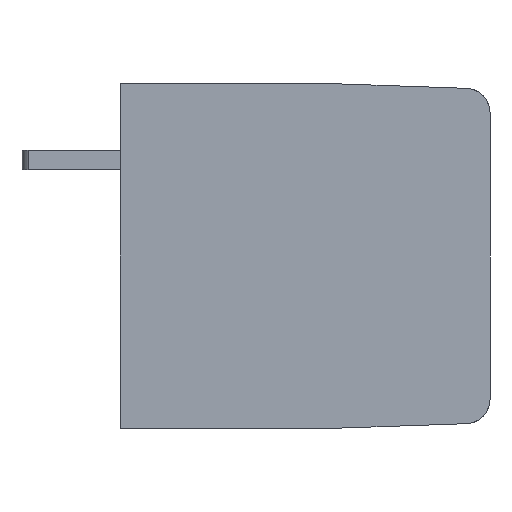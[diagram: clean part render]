
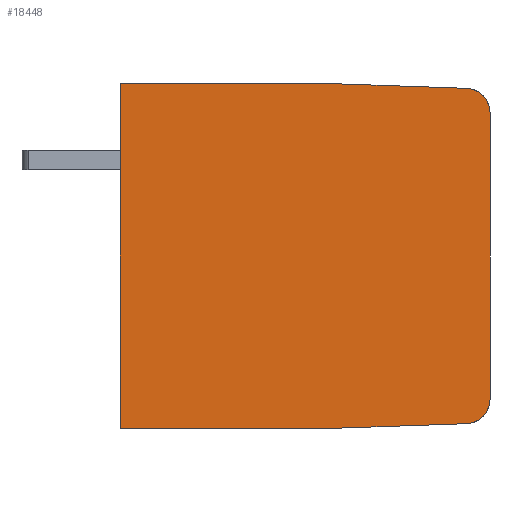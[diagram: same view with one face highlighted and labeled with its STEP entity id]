
A CAD part, front view. The second image highlights one B-rep face of the part: STEP entity #18448.
In plain terms, the highlighted planar face has unit normal (0, -1, 0).
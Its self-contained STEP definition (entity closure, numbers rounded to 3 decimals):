
#277=DIRECTION('',(1.,0.,0.));
#278=VECTOR('',#277,8.5);
#279=CARTESIAN_POINT('',(0.,6.447,-0.493));
#280=LINE('',#279,#278);
#325=CARTESIAN_POINT('',(14.,6.447,-13.301));
#326=DIRECTION('',(0.,-1.,0.));
#327=DIRECTION('',(0.035,0.,-0.999));
#328=AXIS2_PLACEMENT_3D('',#325,#326,#327);
#330=DIRECTION('',(1.,0.,0.));
#331=VECTOR('',#330,8.5);
#332=CARTESIAN_POINT('',(0.,6.447,-14.493));
#333=LINE('',#332,#331);
#334=DIRECTION('',(0.,0.,-1.));
#335=VECTOR('',#334,14.);
#336=CARTESIAN_POINT('',(0.,6.447,-0.493));
#337=LINE('',#336,#335);
#338=DIRECTION('',(-0.999,0.,0.035));
#339=VECTOR('',#338,5.538);
#340=CARTESIAN_POINT('',(14.035,6.447,-0.687));
#341=LINE('',#340,#339);
#342=CARTESIAN_POINT('',(14.,6.447,-1.686));
#343=DIRECTION('',(0.,-1.,0.));
#344=DIRECTION('',(1.,0.,0.));
#345=AXIS2_PLACEMENT_3D('',#342,#343,#344);
#347=DIRECTION('',(0.,0.,-1.));
#348=VECTOR('',#347,11.615);
#349=CARTESIAN_POINT('',(15.,6.447,-1.686));
#350=LINE('',#349,#348);
#588=DIRECTION('',(-0.999,0.,-0.035));
#589=VECTOR('',#588,5.538);
#590=CARTESIAN_POINT('',(14.035,6.447,-14.3));
#591=LINE('',#590,#589);
#16709=CARTESIAN_POINT('',(0.,6.447,-0.493));
#16710=CARTESIAN_POINT('',(0.,6.447,-14.493));
#16711=VERTEX_POINT('',#16709);
#16712=VERTEX_POINT('',#16710);
#16737=CARTESIAN_POINT('',(8.5,6.447,-14.493));
#16738=VERTEX_POINT('',#16737);
#16745=CARTESIAN_POINT('',(14.035,6.447,
-14.3));
#16746=CARTESIAN_POINT('',(15.,6.447,-13.301));
#16747=VERTEX_POINT('',#16745);
#16748=VERTEX_POINT('',#16746);
#16749=CARTESIAN_POINT('',(8.5,6.447,-0.493));
#16750=VERTEX_POINT('',#16749);
#16751=CARTESIAN_POINT('',(14.035,6.447,
-0.687));
#16752=VERTEX_POINT('',#16751);
#16753=CARTESIAN_POINT('',(15.,6.447,-1.686));
#16754=VERTEX_POINT('',#16753);
#18428=CARTESIAN_POINT('',(0.,6.447,-14.493));
#18429=DIRECTION('',(0.,-1.,0.));
#18430=DIRECTION('',(0.,0.,-1.));
#18431=AXIS2_PLACEMENT_3D('',#18428,#18429,#18430);
#18432=PLANE('',#18431);
#18434=ORIENTED_EDGE('',*,*,#18433,.T.);
#18436=ORIENTED_EDGE('',*,*,#18435,.F.);
#18438=ORIENTED_EDGE('',*,*,#18437,.T.);
#18439=ORIENTED_EDGE('',*,*,#18396,.F.);
#18440=ORIENTED_EDGE('',*,*,#18057,.F.);
#18441=ORIENTED_EDGE('',*,*,#18275,.T.);
#18443=ORIENTED_EDGE('',*,*,#18442,.F.);
#18445=ORIENTED_EDGE('',*,*,#18444,.F.);
#18446=EDGE_LOOP('',(#18434,#18436,#18438,#18439,#18440,#18441,#18443,#18445));
#18447=FACE_OUTER_BOUND('',#18446,.F.);
#18448=ADVANCED_FACE('',(#18447),#18432,.T.);
#329=CIRCLE('',#328,1.);
#346=CIRCLE('',#345,1.);
#18057=EDGE_CURVE('',#16711,#16712,#337,.T.);
#18275=EDGE_CURVE('',#16711,#16750,#280,.T.);
#18396=EDGE_CURVE('',#16712,#16738,#333,.T.);
#18433=EDGE_CURVE('',#16754,#16748,#350,.T.);
#18435=EDGE_CURVE('',#16747,#16748,#329,.T.);
#18437=EDGE_CURVE('',#16747,#16738,#591,.T.);
#18442=EDGE_CURVE('',#16752,#16750,#341,.T.);
#18444=EDGE_CURVE('',#16754,#16752,#346,.T.);
